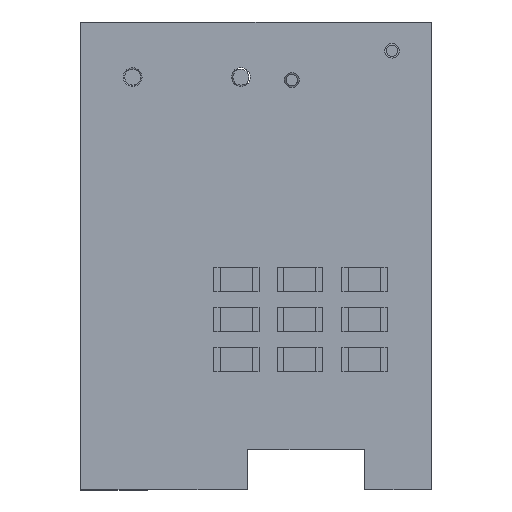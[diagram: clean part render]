
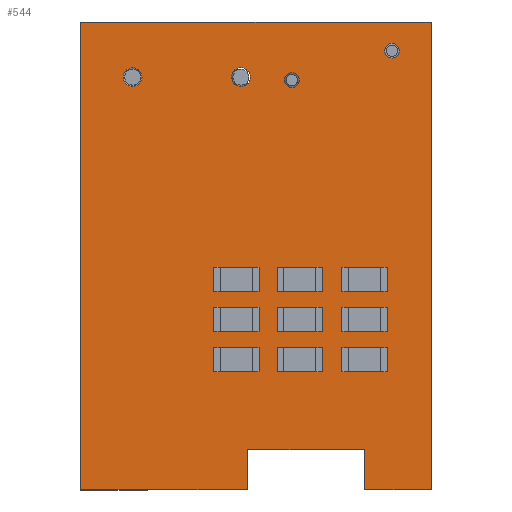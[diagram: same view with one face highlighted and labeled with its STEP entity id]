
A CAD part, top view. The second image highlights one B-rep face of the part: STEP entity #544.
In plain terms, the highlighted planar face has unit normal (0, 0, 1).
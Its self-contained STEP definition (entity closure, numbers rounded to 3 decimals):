
#79 = VERTEX_POINT('',#80);
#80 = CARTESIAN_POINT('',(3.75,0.,0.));
#86 = EDGE_CURVE('',#79,#87,#89,.T.);
#87 = VERTEX_POINT('',#88);
#88 = CARTESIAN_POINT('',(3.75,35.,0.));
#89 = LINE('',#90,#91);
#90 = CARTESIAN_POINT('',(3.75,0.,0.));
#91 = VECTOR('',#92,1.);
#92 = DIRECTION('',(0.,1.,0.));
#117 = EDGE_CURVE('',#87,#118,#120,.T.);
#118 = VERTEX_POINT('',#119);
#119 = CARTESIAN_POINT('',(30.,35.,0.));
#120 = LINE('',#121,#122);
#121 = CARTESIAN_POINT('',(3.75,35.,0.));
#122 = VECTOR('',#123,1.);
#123 = DIRECTION('',(1.,0.,0.));
#148 = EDGE_CURVE('',#118,#149,#151,.T.);
#149 = VERTEX_POINT('',#150);
#150 = CARTESIAN_POINT('',(30.,0.,0.));
#151 = LINE('',#152,#153);
#152 = CARTESIAN_POINT('',(30.,35.,0.));
#153 = VECTOR('',#154,1.);
#154 = DIRECTION('',(0.,-1.,0.));
#179 = EDGE_CURVE('',#149,#180,#182,.T.);
#180 = VERTEX_POINT('',#181);
#181 = CARTESIAN_POINT('',(25.,0.,0.));
#182 = LINE('',#183,#184);
#183 = CARTESIAN_POINT('',(30.,0.,0.));
#184 = VECTOR('',#185,1.);
#185 = DIRECTION('',(-1.,0.,0.));
#210 = EDGE_CURVE('',#180,#211,#213,.T.);
#211 = VERTEX_POINT('',#212);
#212 = CARTESIAN_POINT('',(25.,3.,0.));
#213 = LINE('',#214,#215);
#214 = CARTESIAN_POINT('',(25.,0.,0.));
#215 = VECTOR('',#216,1.);
#216 = DIRECTION('',(0.,1.,0.));
#241 = EDGE_CURVE('',#211,#242,#244,.T.);
#242 = VERTEX_POINT('',#243);
#243 = CARTESIAN_POINT('',(16.25,3.,0.));
#244 = LINE('',#245,#246);
#245 = CARTESIAN_POINT('',(25.,3.,0.));
#246 = VECTOR('',#247,1.);
#247 = DIRECTION('',(-1.,0.,0.));
#272 = EDGE_CURVE('',#242,#273,#275,.T.);
#273 = VERTEX_POINT('',#274);
#274 = CARTESIAN_POINT('',(16.25,0.,0.));
#275 = LINE('',#276,#277);
#276 = CARTESIAN_POINT('',(16.25,3.,0.));
#277 = VECTOR('',#278,1.);
#278 = DIRECTION('',(0.,-1.,0.));
#303 = EDGE_CURVE('',#273,#304,#306,.T.);
#304 = VERTEX_POINT('',#305);
#305 = CARTESIAN_POINT('',(11.25,0.,0.));
#306 = LINE('',#307,#308);
#307 = CARTESIAN_POINT('',(16.25,0.,0.));
#308 = VECTOR('',#309,1.);
#309 = DIRECTION('',(-1.,0.,0.));
#334 = EDGE_CURVE('',#304,#335,#337,.T.);
#335 = VERTEX_POINT('',#336);
#336 = CARTESIAN_POINT('',(8.75,0.,0.));
#337 = LINE('',#338,#339);
#338 = CARTESIAN_POINT('',(11.25,0.,0.));
#339 = VECTOR('',#340,1.);
#340 = DIRECTION('',(-1.,0.,0.));
#365 = EDGE_CURVE('',#335,#79,#366,.T.);
#366 = LINE('',#367,#368);
#367 = CARTESIAN_POINT('',(8.75,0.,0.));
#368 = VECTOR('',#369,1.);
#369 = DIRECTION('',(-1.,0.,0.));
#389 = VERTEX_POINT('',#390);
#390 = CARTESIAN_POINT('',(16.45,30.875,0.));
#396 = EDGE_CURVE('',#389,#389,#397,.T.);
#397 = CIRCLE('',#398,0.7);
#398 = AXIS2_PLACEMENT_3D('',#399,#400,#401);
#399 = CARTESIAN_POINT('',(15.75,30.875,0.));
#400 = DIRECTION('',(0.,0.,1.));
#401 = DIRECTION('',(1.,0.,0.));
#422 = VERTEX_POINT('',#423);
#423 = CARTESIAN_POINT('',(8.357,30.875,0.));
#429 = EDGE_CURVE('',#422,#422,#430,.T.);
#430 = CIRCLE('',#431,0.7);
#431 = AXIS2_PLACEMENT_3D('',#432,#433,#434);
#432 = CARTESIAN_POINT('',(7.658,30.875,0.));
#433 = DIRECTION('',(0.,0.,1.));
#434 = DIRECTION('',(1.,0.,0.));
#455 = VERTEX_POINT('',#456);
#456 = CARTESIAN_POINT('',(20.1,30.65,0.));
#462 = EDGE_CURVE('',#455,#455,#463,.T.);
#463 = CIRCLE('',#464,0.55);
#464 = AXIS2_PLACEMENT_3D('',#465,#466,#467);
#465 = CARTESIAN_POINT('',(19.55,30.65,0.));
#466 = DIRECTION('',(0.,0.,1.));
#467 = DIRECTION('',(1.,0.,0.));
#488 = VERTEX_POINT('',#489);
#489 = CARTESIAN_POINT('',(27.6,32.85,0.));
#495 = EDGE_CURVE('',#488,#488,#496,.T.);
#496 = CIRCLE('',#497,0.55);
#497 = AXIS2_PLACEMENT_3D('',#498,#499,#500);
#498 = CARTESIAN_POINT('',(27.05,32.85,0.));
#499 = DIRECTION('',(0.,0.,1.));
#500 = DIRECTION('',(1.,0.,0.));
#544 = ADVANCED_FACE('',(#545,#557,#560,#563,#566),#569,.T.);
#545 = FACE_BOUND('',#546,.F.);
#546 = EDGE_LOOP('',(#547,#548,#549,#550,#551,#552,#553,#554,#555,#556)
  );
#547 = ORIENTED_EDGE('',*,*,#86,.T.);
#548 = ORIENTED_EDGE('',*,*,#117,.T.);
#549 = ORIENTED_EDGE('',*,*,#148,.T.);
#550 = ORIENTED_EDGE('',*,*,#179,.T.);
#551 = ORIENTED_EDGE('',*,*,#210,.T.);
#552 = ORIENTED_EDGE('',*,*,#241,.T.);
#553 = ORIENTED_EDGE('',*,*,#272,.T.);
#554 = ORIENTED_EDGE('',*,*,#303,.T.);
#555 = ORIENTED_EDGE('',*,*,#334,.T.);
#556 = ORIENTED_EDGE('',*,*,#365,.T.);
#557 = FACE_BOUND('',#558,.T.);
#558 = EDGE_LOOP('',(#559));
#559 = ORIENTED_EDGE('',*,*,#396,.F.);
#560 = FACE_BOUND('',#561,.T.);
#561 = EDGE_LOOP('',(#562));
#562 = ORIENTED_EDGE('',*,*,#429,.F.);
#563 = FACE_BOUND('',#564,.T.);
#564 = EDGE_LOOP('',(#565));
#565 = ORIENTED_EDGE('',*,*,#462,.F.);
#566 = FACE_BOUND('',#567,.T.);
#567 = EDGE_LOOP('',(#568));
#568 = ORIENTED_EDGE('',*,*,#495,.F.);
#569 = PLANE('',#570);
#570 = AXIS2_PLACEMENT_3D('',#571,#572,#573);
#571 = CARTESIAN_POINT('',(3.75,0.,0.));
#572 = DIRECTION('',(0.,0.,1.));
#573 = DIRECTION('',(1.,0.,0.));
